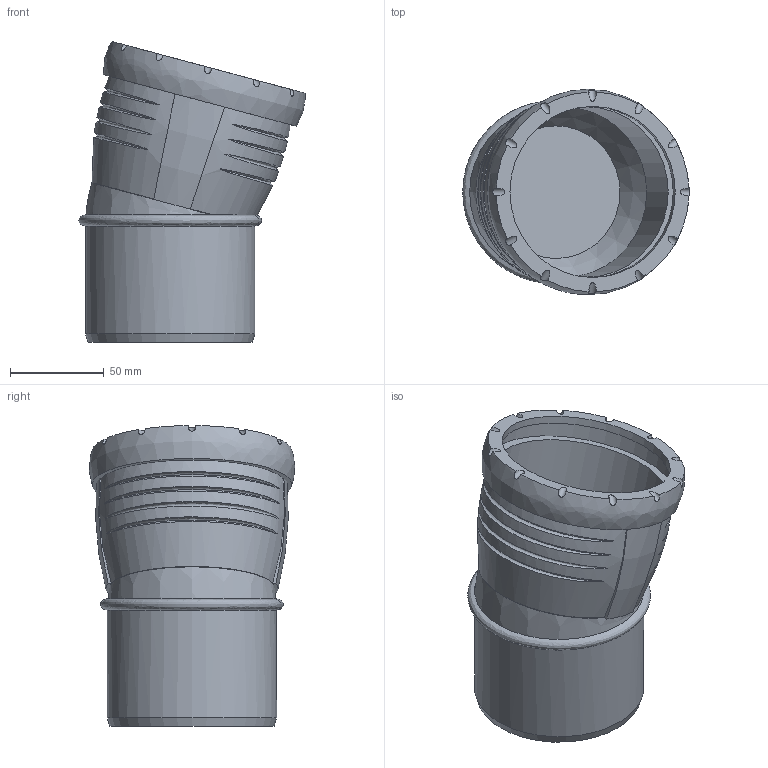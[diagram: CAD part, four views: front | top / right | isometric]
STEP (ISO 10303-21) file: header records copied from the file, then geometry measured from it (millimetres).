
FILE_DESCRIPTION(/* description */ (''),/* implementation_level */ '2;1');
FILE_NAME(/* name */ 'H:\Geberit-Teile\Export\Bogen_TEST\stp\393420.stp',/* time_stamp */ '2017-02-14T10:08:50+01:00',/* author */ ('seihe2'),/* organization */ (''),/* preprocessor_version */ 'ST-DEVELOPER v15.2',/* originating_system */ 'Autodesk Inventor 2014',/* authorisation */ '');
FILE_SCHEMA (('AUTOMOTIVE_DESIGN { 1 0 10303 214 3 1 1 }'));
Length unit declared in the file: millimetre
Products named in the file (1): 393420
Bounding box: 120.6 x 109.42 x 160.33 mm (x, y, z)
Volume: 273488.4 mm3; surface area: 109447.2 mm2
Topology: 2 solids, 2 shells, 53 faces, 128 edges, 90 vertices
Faces by surface type: bspline 25, cylinder 18, plane 8, cone 2
Full cylindrical faces by diameter (mm): 81.6 x1, 90.2 x2, 90.9 x1, 91.2 x1, 100.2 x1
Entity records: 3954 total; most frequent: CARTESIAN_POINT 2805, ORIENTED_EDGE 242, DIRECTION 168, EDGE_CURVE 119, VERTEX_POINT 89, AXIS2_PLACEMENT_3D 84, EDGE_LOOP 75, B_SPLINE_CURVE_WITH_KNOTS 63
